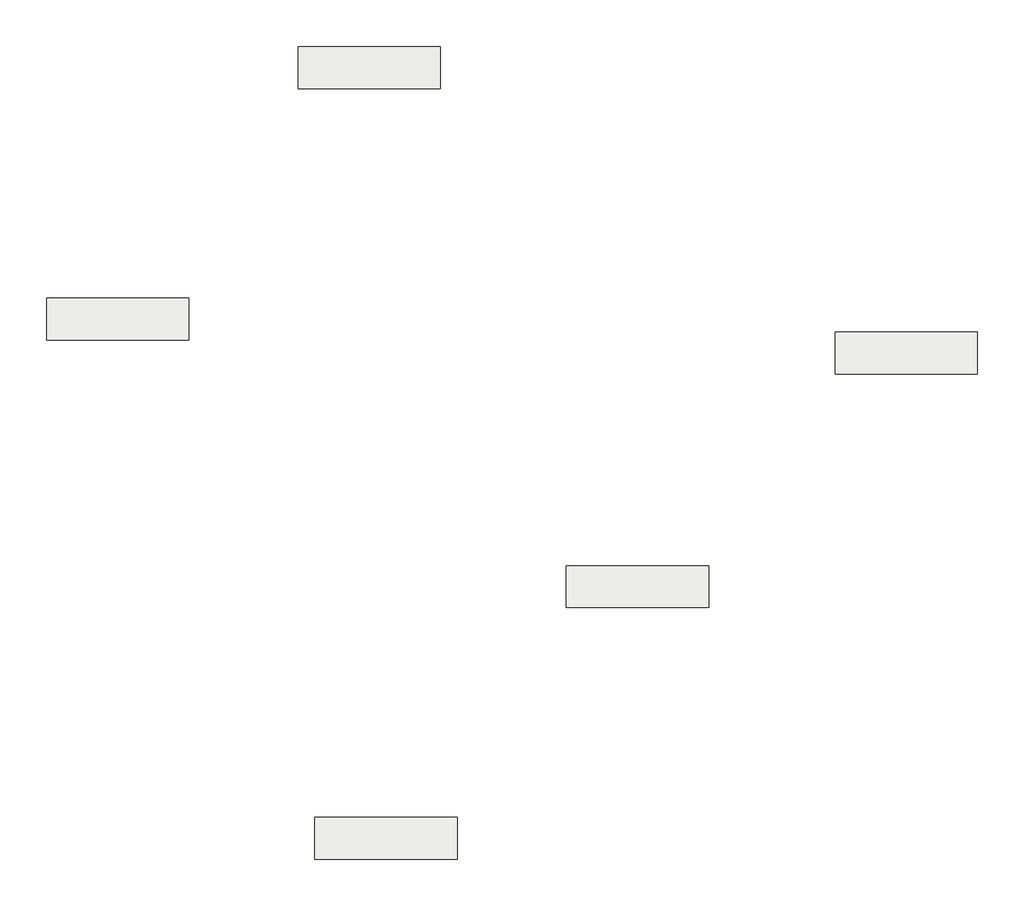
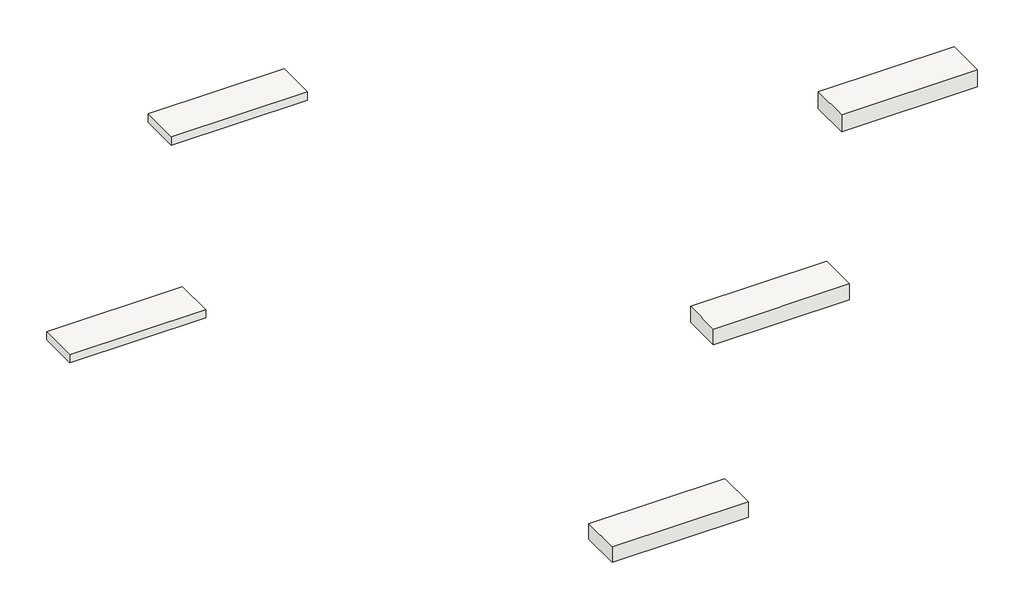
# One storey: 5 roofs.
"""IFC4 building model written with IfcOpenShell, lengths in millimetres."""

from ifc_helpers import new_model, si_unit, frame, origin, place, context, project, spatial, polyline, outline, extrude, element, save

model = new_model("IFC4")

# Units and contexts
model_context = context("Model", 3, world=origin())
ifc_project = project(units=[si_unit("LENGTHUNIT", "METRE", prefix="MILLI")], contexts=[model_context])

# Site, building, storey
site = spatial("IfcSite", under=ifc_project)
building = spatial("IfcBuilding", under=site)
storey = spatial("IfcBuildingStorey", under=building, Name="Lengte", Elevation=2000.0)

# Roofs
placement = place(None, origin())
element("IfcRoof", 1, ObjectType="NLRS_27_RO_Naturoll 033_120x590x3300mm", at=placement, inside=storey, context=model_context, shape_type="SweptSolid", body=[
    extrude(outline(polyline([(-478.1586256, 3002.3983371), (1521.8413744, 3002.3983371), (1521.8413744, 2412.3983371), (-478.1586256, 2412.3983371), (-478.1586256, 3002.3983371)])), frame((0.0, 0.0, 2000.0), z_axis=(0.0, 0.0, 1.0), x_axis=(1.0, 0.0, 0.0)), (0.0, 0.0, 1.0), 120.0),
])
element("IfcRoof", 2, ObjectType="NLRS_27_RO_Naturoll 033_135x590x3900mm", at=placement, inside=storey, context=model_context, shape_type="SweptSolid", body=[
    extrude(outline(polyline([(3057.3752803, 6537.9322431), (5057.3752803, 6537.9322431), (5057.3752803, 5947.9322431), (3057.3752803, 5947.9322431), (3057.3752803, 6537.9322431)])), frame((0.0, 0.0, 2000.0), z_axis=(0.0, 0.0, 1.0), x_axis=(1.0, 0.0, 0.0)), (0.0, 0.0, 1.0), 135.0),
])
element("IfcRoof", 3, ObjectType="NLRS_27_RO_Naturoll 033_240x590x2000mm", at=placement, inside=storey, context=model_context, shape_type="SweptSolid", body=[
    extrude(outline(polyline([(3289.6940688, -4296.6807597), (5289.6940688, -4296.6807597), (5289.6940688, -4886.6807597), (3289.6940688, -4886.6807597), (3289.6940688, -4296.6807597)])), frame((0.0, 0.0, 2000.0), z_axis=(0.0, 0.0, 1.0), x_axis=(1.0, 0.0, 0.0)), (0.0, 0.0, 1.0), 245.0),
])
element("IfcRoof", 4, ObjectType="NLRS_27_RO_Naturoll 033_245x580x2000mm", at=placement, inside=storey, context=model_context, shape_type="SweptSolid", body=[
    extrude(outline(polyline([(6825.2279747, -766.1468538), (8825.2279747, -766.1468538), (8825.2279747, -1346.1468538), (6825.2279747, -1346.1468538), (6825.2279747, -766.1468538)])), frame((0.0, 0.0, 2000.0), z_axis=(0.0, 0.0, 1.0), x_axis=(1.0, 0.0, 0.0)), (0.0, 0.0, 1.0), 245.0),
])
element("IfcRoof", 5, ObjectType="NLRS_27_RO_Naturoll 033_270x590x2500mm", at=placement, inside=storey, context=model_context, shape_type="SweptSolid", body=[
    extrude(outline(polyline([(10603.231085, 2523.3028409), (12603.231085, 2523.3028409), (12603.231085, 1933.3028409), (10603.231085, 1933.3028409), (10603.231085, 2523.3028409)])), frame((0.0, 0.0, 2000.0), z_axis=(0.0, 0.0, 1.0), x_axis=(1.0, 0.0, 0.0)), (0.0, 0.0, 1.0), 270.0),
])

save(model, "model.ifc")
